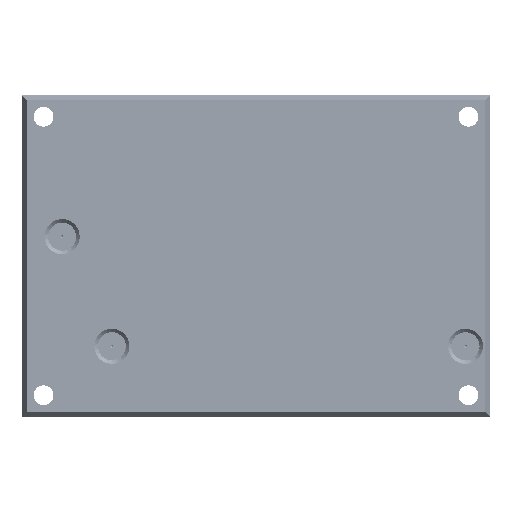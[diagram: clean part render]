
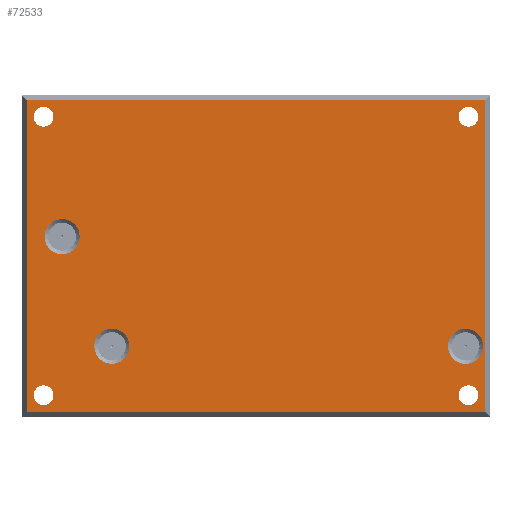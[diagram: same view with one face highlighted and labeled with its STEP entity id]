
A CAD part, front view. The second image highlights one B-rep face of the part: STEP entity #72533.
In plain terms, the highlighted planar face has unit normal (0, -1, 0).
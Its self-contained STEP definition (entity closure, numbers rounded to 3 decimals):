
#572 = DIRECTION ( 'NONE',  ( 0., 0., -1. ) ) ;
#3168 = ORIENTED_EDGE ( 'NONE', *, *, #127952, .F. ) ;
#3282 = VECTOR ( 'NONE', #127322, 1000. ) ;
#4223 = AXIS2_PLACEMENT_3D ( 'NONE', #163080, #83362, #17623 ) ;
#5899 = EDGE_CURVE ( 'NONE', #150874, #150874, #131149, .T. ) ;
#6117 = DIRECTION ( 'NONE',  ( 0., 0., -1. ) ) ;
#6382 = CARTESIAN_POINT ( 'NONE',  ( 0., -3.3, -0.837 ) ) ;
#9130 = VERTEX_POINT ( 'NONE', #16415 ) ;
#10020 = EDGE_LOOP ( 'NONE', ( #120064, #10453, #122055, #30066 ) ) ;
#10453 = ORIENTED_EDGE ( 'NONE', *, *, #89339, .F. ) ;
#12023 = VECTOR ( 'NONE', #93193, 1000. ) ;
#13601 = VERTEX_POINT ( 'NONE', #109930 ) ;
#16415 = CARTESIAN_POINT ( 'NONE',  ( 1.489, -3.3, -0.837 ) ) ;
#17383 = DIRECTION ( 'NONE',  ( 0., 0., -1. ) ) ;
#17623 = DIRECTION ( 'NONE',  ( 0., 0., -1. ) ) ;
#17820 = VERTEX_POINT ( 'NONE', #34946 ) ;
#18357 = EDGE_CURVE ( 'NONE', #100472, #130680, #39714, .T. ) ;
#19732 = CIRCLE ( 'NONE', #86778, 1.7 ) ;
#19769 = DIRECTION ( 'NONE',  ( 0., -1., 0. ) ) ;
#21405 = CARTESIAN_POINT ( 'NONE',  ( 4.334, -3.3, -53.008 ) ) ;
#22855 = ORIENTED_EDGE ( 'NONE', *, *, #26032, .F. ) ;
#23999 = FACE_BOUND ( 'NONE', #121392, .T. ) ;
#24808 = AXIS2_PLACEMENT_3D ( 'NONE', #72652, #128676, #116392 ) ;
#26032 = EDGE_CURVE ( 'NONE', #13601, #13601, #110251, .T. ) ;
#30066 = ORIENTED_EDGE ( 'NONE', *, *, #18357, .F. ) ;
#30848 = VERTEX_POINT ( 'NONE', #127238 ) ;
#31426 = VECTOR ( 'NONE', #65678, 1000. ) ;
#32828 = VERTEX_POINT ( 'NONE', #21405 ) ;
#33684 = FACE_OUTER_BOUND ( 'NONE', #10020, .T. ) ;
#34702 = AXIS2_PLACEMENT_3D ( 'NONE', #80342, #67177, #572 ) ;
#34946 = CARTESIAN_POINT ( 'NONE',  ( 79.824, -3.3, -0.837 ) ) ;
#36401 = ORIENTED_EDGE ( 'NONE', *, *, #5899, .F. ) ;
#38521 = LINE ( 'NONE', #173407, #31426 ) ;
#39341 = LINE ( 'NONE', #67365, #83885 ) ;
#39714 = LINE ( 'NONE', #91486, #12023 ) ;
#40017 = EDGE_LOOP ( 'NONE', ( #3168 ) ) ;
#43800 = CARTESIAN_POINT ( 'NONE',  ( 4.334, -3.3, -51.308 ) ) ;
#51176 = FACE_BOUND ( 'NONE', #40017, .T. ) ;
#51869 = DIRECTION ( 'NONE',  ( 0., 0., -1. ) ) ;
#61768 = EDGE_LOOP ( 'NONE', ( #99216 ) ) ;
#65678 = DIRECTION ( 'NONE',  ( 0., 0., -1. ) ) ;
#66067 = CARTESIAN_POINT ( 'NONE',  ( 76.978, -3.3, -53.008 ) ) ;
#67177 = DIRECTION ( 'NONE',  ( 0., -1., 0. ) ) ;
#67365 = CARTESIAN_POINT ( 'NONE',  ( 1.489, -3.3, 0. ) ) ;
#72533 = ADVANCED_FACE ( 'NONE', ( #33684, #143199, #171181, #23999, #51176, #74861, #129195, #155466 ), #103760, .T. ) ;
#72652 = CARTESIAN_POINT ( 'NONE',  ( 76.978, -3.3, -3.683 ) ) ;
#73217 = DIRECTION ( 'NONE',  ( 0., 0., -1. ) ) ;
#74686 = CARTESIAN_POINT ( 'NONE',  ( 1.489, -3.3, -54.154 ) ) ;
#74861 = FACE_BOUND ( 'NONE', #149088, .T. ) ;
#76604 = CARTESIAN_POINT ( 'NONE',  ( 0., -3.3, 0. ) ) ;
#78271 = CIRCLE ( 'NONE', #139806, 3. ) ;
#78798 = AXIS2_PLACEMENT_3D ( 'NONE', #76604, #88872, #102883 ) ;
#80342 = CARTESIAN_POINT ( 'NONE',  ( 76.47, -3.3, -42.926 ) ) ;
#81597 = DIRECTION ( 'NONE',  ( 0., -1., 0. ) ) ;
#83362 = DIRECTION ( 'NONE',  ( 0., -1., 0. ) ) ;
#83885 = VECTOR ( 'NONE', #120821, 1000. ) ;
#86778 = AXIS2_PLACEMENT_3D ( 'NONE', #122557, #19769, #73217 ) ;
#88382 = EDGE_CURVE ( 'NONE', #95970, #95970, #171049, .T. ) ;
#88872 = DIRECTION ( 'NONE',  ( 0., -1., 0. ) ) ;
#89339 = EDGE_CURVE ( 'NONE', #9130, #17820, #126462, .T. ) ;
#90020 = EDGE_CURVE ( 'NONE', #17820, #100472, #38521, .T. ) ;
#90440 = CIRCLE ( 'NONE', #95928, 1.7 ) ;
#91486 = CARTESIAN_POINT ( 'NONE',  ( 0., -3.3, -54.154 ) ) ;
#93193 = DIRECTION ( 'NONE',  ( -1., 0., 0. ) ) ;
#95928 = AXIS2_PLACEMENT_3D ( 'NONE', #43800, #126187, #6117 ) ;
#95970 = VERTEX_POINT ( 'NONE', #120540 ) ;
#99216 = ORIENTED_EDGE ( 'NONE', *, *, #88382, .F. ) ;
#100105 = VERTEX_POINT ( 'NONE', #113244 ) ;
#100472 = VERTEX_POINT ( 'NONE', #106714 ) ;
#102883 = DIRECTION ( 'NONE',  ( 0., 0., -1. ) ) ;
#103760 = PLANE ( 'NONE',  #78798 ) ;
#106472 = EDGE_CURVE ( 'NONE', #30848, #30848, #78271, .T. ) ;
#106714 = CARTESIAN_POINT ( 'NONE',  ( 79.824, -3.3, -54.154 ) ) ;
#109930 = CARTESIAN_POINT ( 'NONE',  ( 76.47, -3.3, -45.926 ) ) ;
#110251 = CIRCLE ( 'NONE', #34702, 3. ) ;
#113244 = CARTESIAN_POINT ( 'NONE',  ( 4.334, -3.3, -5.383 ) ) ;
#116392 = DIRECTION ( 'NONE',  ( 0., 0., -1. ) ) ;
#117921 = AXIS2_PLACEMENT_3D ( 'NONE', #131640, #81597, #51869 ) ;
#120064 = ORIENTED_EDGE ( 'NONE', *, *, #90020, .F. ) ;
#120540 = CARTESIAN_POINT ( 'NONE',  ( 16.018, -3.3, -45.926 ) ) ;
#120821 = DIRECTION ( 'NONE',  ( 0., 0., 1. ) ) ;
#121392 = EDGE_LOOP ( 'NONE', ( #22855 ) ) ;
#122055 = ORIENTED_EDGE ( 'NONE', *, *, #140871, .F. ) ;
#122557 = CARTESIAN_POINT ( 'NONE',  ( 4.334, -3.3, -3.683 ) ) ;
#123355 = EDGE_LOOP ( 'NONE', ( #172887 ) ) ;
#123707 = CARTESIAN_POINT ( 'NONE',  ( 76.978, -3.3, -5.383 ) ) ;
#126187 = DIRECTION ( 'NONE',  ( 0., -1., 0. ) ) ;
#126462 = LINE ( 'NONE', #6382, #3282 ) ;
#127238 = CARTESIAN_POINT ( 'NONE',  ( 7.509, -3.3, -27.194 ) ) ;
#127322 = DIRECTION ( 'NONE',  ( 1., 0., 0. ) ) ;
#127952 = EDGE_CURVE ( 'NONE', #32828, #32828, #90440, .T. ) ;
#128676 = DIRECTION ( 'NONE',  ( 0., -1., 0. ) ) ;
#129195 = FACE_BOUND ( 'NONE', #123355, .T. ) ;
#130680 = VERTEX_POINT ( 'NONE', #74686 ) ;
#131149 = CIRCLE ( 'NONE', #24808, 1.7 ) ;
#131640 = CARTESIAN_POINT ( 'NONE',  ( 16.018, -3.3, -42.926 ) ) ;
#134019 = CARTESIAN_POINT ( 'NONE',  ( 7.509, -3.3, -24.194 ) ) ;
#136649 = ORIENTED_EDGE ( 'NONE', *, *, #106472, .F. ) ;
#139806 = AXIS2_PLACEMENT_3D ( 'NONE', #134019, #147151, #17383 ) ;
#140035 = EDGE_LOOP ( 'NONE', ( #36401 ) ) ;
#140871 = EDGE_CURVE ( 'NONE', #130680, #9130, #39341, .T. ) ;
#141309 = EDGE_CURVE ( 'NONE', #100105, #100105, #19732, .T. ) ;
#143199 = FACE_BOUND ( 'NONE', #151319, .T. ) ;
#147151 = DIRECTION ( 'NONE',  ( 0., -1., 0. ) ) ;
#149088 = EDGE_LOOP ( 'NONE', ( #161490 ) ) ;
#150874 = VERTEX_POINT ( 'NONE', #123707 ) ;
#151319 = EDGE_LOOP ( 'NONE', ( #136649 ) ) ;
#155466 = FACE_BOUND ( 'NONE', #140035, .T. ) ;
#158243 = CIRCLE ( 'NONE', #4223, 1.7 ) ;
#161490 = ORIENTED_EDGE ( 'NONE', *, *, #165206, .F. ) ;
#163080 = CARTESIAN_POINT ( 'NONE',  ( 76.978, -3.3, -51.308 ) ) ;
#165206 = EDGE_CURVE ( 'NONE', #169695, #169695, #158243, .T. ) ;
#169695 = VERTEX_POINT ( 'NONE', #66067 ) ;
#171049 = CIRCLE ( 'NONE', #117921, 3. ) ;
#171181 = FACE_BOUND ( 'NONE', #61768, .T. ) ;
#172887 = ORIENTED_EDGE ( 'NONE', *, *, #141309, .F. ) ;
#173407 = CARTESIAN_POINT ( 'NONE',  ( 79.824, -3.3, 0. ) ) ;
